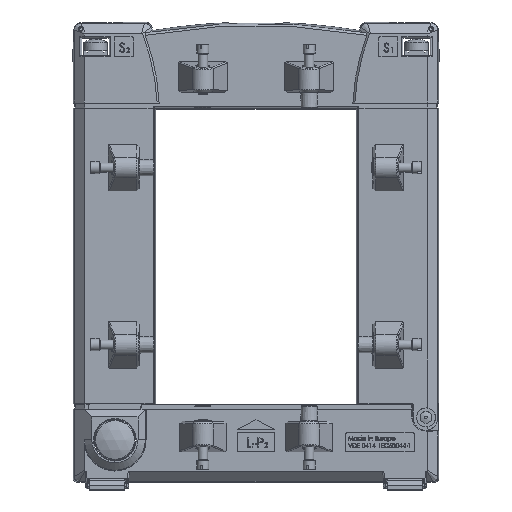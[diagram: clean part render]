
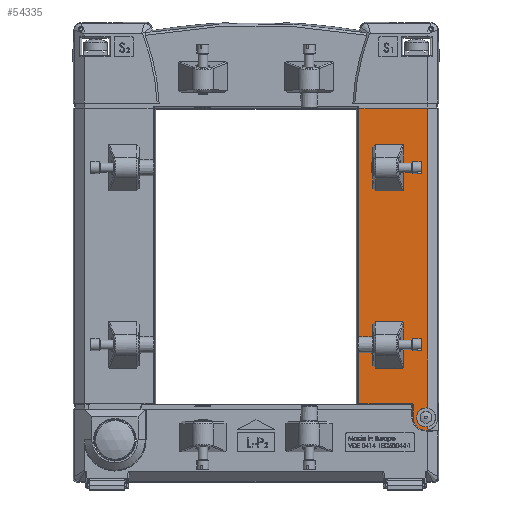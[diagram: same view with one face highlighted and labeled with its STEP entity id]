
A CAD part, top view. The second image highlights one B-rep face of the part: STEP entity #54335.
In plain terms, the highlighted planar face has unit normal (0, 0, 1).
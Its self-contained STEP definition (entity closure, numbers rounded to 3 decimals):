
#1722=PLANE('',#58304);
#3097=FACE_BOUND('',#9451,.T.);
#3098=FACE_BOUND('',#9452,.T.);
#3561=ELLIPSE('',#58307,0.502,0.5);
#3562=ELLIPSE('',#58309,0.588,0.5);
#3563=ELLIPSE('',#58310,0.588,0.5);
#3564=ELLIPSE('',#58311,0.588,0.5);
#3565=ELLIPSE('',#58312,0.588,0.5);
#6399=FACE_OUTER_BOUND('',#9450,.T.);
#9450=EDGE_LOOP('',(#45625,#45626,#45627,#45628,#45629,#45630,#45631,#45632,
#45633,#45634,#45635,#45636));
#9451=EDGE_LOOP('',(#45637,#45638,#45639,#45640,#45641,#45642,#45643,#45644));
#9452=EDGE_LOOP('',(#45645,#45646,#45647,#45648,#45649,#45650,#45651,#45652));
#14407=LINE('',#102396,#19508);
#14507=LINE('',#102767,#19608);
#14508=LINE('',#102769,#19609);
#14509=LINE('',#102771,#19610);
#14510=LINE('',#102774,#19611);
#14511=LINE('',#102777,#19612);
#14512=LINE('',#102780,#19613);
#14513=LINE('',#102784,#19614);
#14514=LINE('',#102786,#19615);
#14515=LINE('',#102788,#19616);
#14516=LINE('',#102790,#19617);
#14517=LINE('',#102792,#19618);
#14518=LINE('',#102796,#19619);
#14519=LINE('',#102798,#19620);
#14520=LINE('',#102800,#19621);
#14521=LINE('',#102802,#19622);
#14522=LINE('',#102806,#19623);
#14523=LINE('',#102809,#19624);
#19508=VECTOR('',#69873,1000.);
#19608=VECTOR('',#70125,1000.);
#19609=VECTOR('',#70126,1000.);
#19610=VECTOR('',#70127,1000.);
#19611=VECTOR('',#70130,1000.);
#19612=VECTOR('',#70133,1000.);
#19613=VECTOR('',#70134,1000.);
#19614=VECTOR('',#70137,1000.);
#19615=VECTOR('',#70138,1000.);
#19616=VECTOR('',#70139,1000.);
#19617=VECTOR('',#70140,1000.);
#19618=VECTOR('',#70141,1000.);
#19619=VECTOR('',#70144,1000.);
#19620=VECTOR('',#70145,1000.);
#19621=VECTOR('',#70146,1000.);
#19622=VECTOR('',#70147,1000.);
#19623=VECTOR('',#70150,1000.);
#19624=VECTOR('',#70153,1000.);
#21197=CIRCLE('',#58068,4.003);
#21199=CIRCLE('',#58070,4.003);
#21290=CIRCLE('',#58305,5.5);
#21291=CIRCLE('',#58306,5.507);
#21292=CIRCLE('',#58308,0.2);
#25190=VERTEX_POINT('',#99995);
#25191=VERTEX_POINT('',#99996);
#25192=VERTEX_POINT('',#99998);
#25542=VERTEX_POINT('',#102393);
#25543=VERTEX_POINT('',#102395);
#25657=VERTEX_POINT('',#102762);
#25658=VERTEX_POINT('',#102763);
#25659=VERTEX_POINT('',#102765);
#25660=VERTEX_POINT('',#102768);
#25661=VERTEX_POINT('',#102770);
#25662=VERTEX_POINT('',#102772);
#25663=VERTEX_POINT('',#102775);
#25664=VERTEX_POINT('',#102778);
#25665=VERTEX_POINT('',#102779);
#25666=VERTEX_POINT('',#102781);
#25667=VERTEX_POINT('',#102783);
#25668=VERTEX_POINT('',#102785);
#25669=VERTEX_POINT('',#102787);
#25670=VERTEX_POINT('',#102789);
#25671=VERTEX_POINT('',#102791);
#25672=VERTEX_POINT('',#102794);
#25673=VERTEX_POINT('',#102795);
#25674=VERTEX_POINT('',#102797);
#25675=VERTEX_POINT('',#102799);
#25676=VERTEX_POINT('',#102801);
#25677=VERTEX_POINT('',#102803);
#25678=VERTEX_POINT('',#102805);
#25679=VERTEX_POINT('',#102807);
#32000=EDGE_CURVE('',#25191,#25192,#21197,.T.);
#32003=EDGE_CURVE('',#25192,#25190,#21199,.T.);
#32437=EDGE_CURVE('',#25543,#25542,#14407,.T.);
#32593=EDGE_CURVE('',#25657,#25658,#21290,.T.);
#32594=EDGE_CURVE('',#25658,#25659,#21291,.T.);
#32595=EDGE_CURVE('',#25659,#25190,#14507,.T.);
#32596=EDGE_CURVE('',#25191,#25660,#14508,.T.);
#32597=EDGE_CURVE('',#25661,#25660,#14509,.T.);
#32598=EDGE_CURVE('',#25661,#25662,#3561,.T.);
#32599=EDGE_CURVE('',#25662,#25543,#14510,.T.);
#32600=EDGE_CURVE('',#25542,#25663,#21292,.T.);
#32601=EDGE_CURVE('',#25663,#25657,#14511,.T.);
#32602=EDGE_CURVE('',#25664,#25665,#14512,.T.);
#32603=EDGE_CURVE('',#25664,#25666,#3562,.T.);
#32604=EDGE_CURVE('',#25666,#25667,#14513,.T.);
#32605=EDGE_CURVE('',#25667,#25668,#14514,.T.);
#32606=EDGE_CURVE('',#25668,#25669,#14515,.T.);
#32607=EDGE_CURVE('',#25669,#25670,#14516,.T.);
#32608=EDGE_CURVE('',#25670,#25671,#14517,.T.);
#32609=EDGE_CURVE('',#25671,#25665,#3563,.T.);
#32610=EDGE_CURVE('',#25672,#25673,#14518,.T.);
#32611=EDGE_CURVE('',#25673,#25674,#14519,.T.);
#32612=EDGE_CURVE('',#25674,#25675,#14520,.T.);
#32613=EDGE_CURVE('',#25675,#25676,#14521,.T.);
#32614=EDGE_CURVE('',#25676,#25677,#3564,.T.);
#32615=EDGE_CURVE('',#25678,#25677,#14522,.T.);
#32616=EDGE_CURVE('',#25678,#25679,#3565,.T.);
#32617=EDGE_CURVE('',#25679,#25672,#14523,.T.);
#45625=ORIENTED_EDGE('',*,*,#32593,.T.);
#45626=ORIENTED_EDGE('',*,*,#32594,.T.);
#45627=ORIENTED_EDGE('',*,*,#32595,.T.);
#45628=ORIENTED_EDGE('',*,*,#32003,.F.);
#45629=ORIENTED_EDGE('',*,*,#32000,.F.);
#45630=ORIENTED_EDGE('',*,*,#32596,.T.);
#45631=ORIENTED_EDGE('',*,*,#32597,.F.);
#45632=ORIENTED_EDGE('',*,*,#32598,.T.);
#45633=ORIENTED_EDGE('',*,*,#32599,.T.);
#45634=ORIENTED_EDGE('',*,*,#32437,.T.);
#45635=ORIENTED_EDGE('',*,*,#32600,.T.);
#45636=ORIENTED_EDGE('',*,*,#32601,.T.);
#45637=ORIENTED_EDGE('',*,*,#32602,.F.);
#45638=ORIENTED_EDGE('',*,*,#32603,.T.);
#45639=ORIENTED_EDGE('',*,*,#32604,.T.);
#45640=ORIENTED_EDGE('',*,*,#32605,.T.);
#45641=ORIENTED_EDGE('',*,*,#32606,.T.);
#45642=ORIENTED_EDGE('',*,*,#32607,.T.);
#45643=ORIENTED_EDGE('',*,*,#32608,.T.);
#45644=ORIENTED_EDGE('',*,*,#32609,.T.);
#45645=ORIENTED_EDGE('',*,*,#32610,.T.);
#45646=ORIENTED_EDGE('',*,*,#32611,.T.);
#45647=ORIENTED_EDGE('',*,*,#32612,.T.);
#45648=ORIENTED_EDGE('',*,*,#32613,.T.);
#45649=ORIENTED_EDGE('',*,*,#32614,.T.);
#45650=ORIENTED_EDGE('',*,*,#32615,.F.);
#45651=ORIENTED_EDGE('',*,*,#32616,.T.);
#45652=ORIENTED_EDGE('',*,*,#32617,.T.);
#54335=ADVANCED_FACE('',(#6399,#3097,#3098),#1722,.T.);
#58068=AXIS2_PLACEMENT_3D('',#99999,#69248,#69249);
#58070=AXIS2_PLACEMENT_3D('',#100003,#69253,#69254);
#58304=AXIS2_PLACEMENT_3D('',#102761,#70119,#70120);
#58305=AXIS2_PLACEMENT_3D('',#102764,#70121,#70122);
#58306=AXIS2_PLACEMENT_3D('',#102766,#70123,#70124);
#58307=AXIS2_PLACEMENT_3D('',#102773,#70128,#70129);
#58308=AXIS2_PLACEMENT_3D('',#102776,#70131,#70132);
#58309=AXIS2_PLACEMENT_3D('',#102782,#70135,#70136);
#58310=AXIS2_PLACEMENT_3D('',#102793,#70142,#70143);
#58311=AXIS2_PLACEMENT_3D('',#102804,#70148,#70149);
#58312=AXIS2_PLACEMENT_3D('',#102808,#70151,#70152);
#69248=DIRECTION('center_axis',(0.,0.,1.));
#69249=DIRECTION('ref_axis',(1.,0.,0.));
#69253=DIRECTION('center_axis',(0.,0.,1.));
#69254=DIRECTION('ref_axis',(1.,0.,0.));
#69873=DIRECTION('',(1.,0.,0.));
#70119=DIRECTION('center_axis',(0.,0.,1.));
#70120=DIRECTION('ref_axis',(1.,0.,0.));
#70121=DIRECTION('center_axis',(0.,0.,1.));
#70122=DIRECTION('ref_axis',(1.,0.,0.));
#70123=DIRECTION('center_axis',(0.,0.,
1.));
#70124=DIRECTION('ref_axis',(0.246,-0.969,0.));
#70125=DIRECTION('',(0.,1.,0.));
#70126=DIRECTION('',(0.,1.,0.));
#70127=DIRECTION('',(1.,0.,0.));
#70128=DIRECTION('center_axis',(0.,0.,1.));
#70129=DIRECTION('ref_axis',(0.37,-0.929,0.));
#70130=DIRECTION('',(0.,-1.,0.));
#70131=DIRECTION('center_axis',(0.,0.,-1.));
#70132=DIRECTION('ref_axis',(1.,0.,0.));
#70133=DIRECTION('',(0.,-1.,0.));
#70134=DIRECTION('',(0.,1.,0.));
#70135=DIRECTION('center_axis',(0.,0.,
-1.));
#70136=DIRECTION('ref_axis',(-0.358,0.934,0.));
#70137=DIRECTION('',(-1.,0.,0.));
#70138=DIRECTION('',(-0.658,0.753,0.));
#70139=DIRECTION('',(0.,1.,0.));
#70140=DIRECTION('',(0.658,0.753,0.));
#70141=DIRECTION('',(1.,0.,0.));
#70142=DIRECTION('center_axis',(0.,0.,
-1.));
#70143=DIRECTION('ref_axis',(0.358,0.934,0.));
#70144=DIRECTION('',(-0.658,0.753,0.));
#70145=DIRECTION('',(0.,1.,0.));
#70146=DIRECTION('',(0.658,0.753,0.));
#70147=DIRECTION('',(1.,0.,0.));
#70148=DIRECTION('center_axis',(0.,0.,
-1.));
#70149=DIRECTION('ref_axis',(0.358,0.934,0.));
#70150=DIRECTION('',(0.,1.,0.));
#70151=DIRECTION('center_axis',(0.,0.,
-1.));
#70152=DIRECTION('ref_axis',(-0.358,0.934,0.));
#70153=DIRECTION('',(-1.,0.,0.));
#99995=CARTESIAN_POINT('',(72.759,12.329,17.));
#99996=CARTESIAN_POINT('',(72.759,20.191,17.));
#99998=CARTESIAN_POINT('',(67.997,16.26,17.));
#99999=CARTESIAN_POINT('Origin',(72.,16.26,17.));
#100003=CARTESIAN_POINT('Origin',(72.,16.26,17.));
#102393=CARTESIAN_POINT('',(66.3,21.96,17.));
#102395=CARTESIAN_POINT('',(43.576,21.96,17.));
#102396=CARTESIAN_POINT('',(42.5,21.96,17.));
#102761=CARTESIAN_POINT('Origin',(72.,16.26,17.));
#102762=CARTESIAN_POINT('',(66.5,16.26,17.));
#102763=CARTESIAN_POINT('',(72.,10.76,17.));
#102764=CARTESIAN_POINT('Origin',(72.,16.26,17.));
#102765=CARTESIAN_POINT('',(72.759,10.897,17.));
#102766=CARTESIAN_POINT('Origin',(71.402,16.234,17.));
#102767=CARTESIAN_POINT('',(72.759,183.166,17.));
#102768=CARTESIAN_POINT('',(72.759,147.18,17.));
#102769=CARTESIAN_POINT('',(72.759,183.166,17.));
#102770=CARTESIAN_POINT('',(43.592,147.18,17.));
#102771=CARTESIAN_POINT('',(72.,147.18,17.));
#102772=CARTESIAN_POINT('',(43.576,147.18,17.));
#102773=CARTESIAN_POINT('Origin',(43.594,146.678,17.));
#102774=CARTESIAN_POINT('',(43.576,21.96,17.));
#102775=CARTESIAN_POINT('',(66.5,21.76,17.));
#102776=CARTESIAN_POINT('Origin',(66.3,21.76,17.));
#102777=CARTESIAN_POINT('',(66.5,16.26,17.));
#102778=CARTESIAN_POINT('',(62.5,112.7,17.));
#102779=CARTESIAN_POINT('',(62.5,131.3,17.));
#102780=CARTESIAN_POINT('',(62.5,16.26,17.));
#102781=CARTESIAN_POINT('',(62.043,112.185,17.));
#102782=CARTESIAN_POINT('Origin',(61.988,112.762,17.));
#102783=CARTESIAN_POINT('',(50.509,112.185,17.));
#102784=CARTESIAN_POINT('',(72.,112.185,17.));
#102785=CARTESIAN_POINT('',(49.5,113.34,17.));
#102786=CARTESIAN_POINT('',(47.82,115.262,17.));
#102787=CARTESIAN_POINT('',(49.5,130.66,17.));
#102788=CARTESIAN_POINT('',(49.5,16.26,17.));
#102789=CARTESIAN_POINT('',(50.509,131.815,17.));
#102790=CARTESIAN_POINT('',(47.82,128.738,17.));
#102791=CARTESIAN_POINT('',(62.043,131.815,17.));
#102792=CARTESIAN_POINT('',(72.,131.815,17.));
#102793=CARTESIAN_POINT('Origin',(61.988,131.238,17.));
#102794=CARTESIAN_POINT('',(50.509,37.185,17.));
#102795=CARTESIAN_POINT('',(49.5,38.34,17.));
#102796=CARTESIAN_POINT('',(47.82,40.262,17.));
#102797=CARTESIAN_POINT('',(49.5,55.66,17.));
#102798=CARTESIAN_POINT('',(49.5,-58.74,17.));
#102799=CARTESIAN_POINT('',(50.509,56.815,17.));
#102800=CARTESIAN_POINT('',(47.82,53.738,17.));
#102801=CARTESIAN_POINT('',(62.043,56.815,17.));
#102802=CARTESIAN_POINT('',(72.,56.815,17.));
#102803=CARTESIAN_POINT('',(62.5,56.3,17.));
#102804=CARTESIAN_POINT('Origin',(61.988,56.238,17.));
#102805=CARTESIAN_POINT('',(62.5,37.7,17.));
#102806=CARTESIAN_POINT('',(62.5,-58.74,17.));
#102807=CARTESIAN_POINT('',(62.043,37.185,17.));
#102808=CARTESIAN_POINT('Origin',(61.988,37.762,17.));
#102809=CARTESIAN_POINT('',(72.,37.185,17.));
